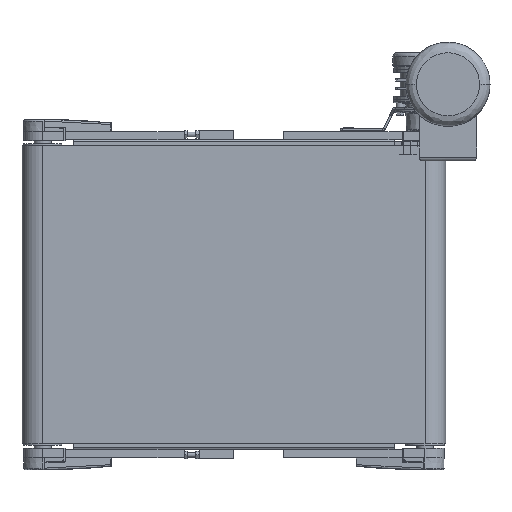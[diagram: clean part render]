
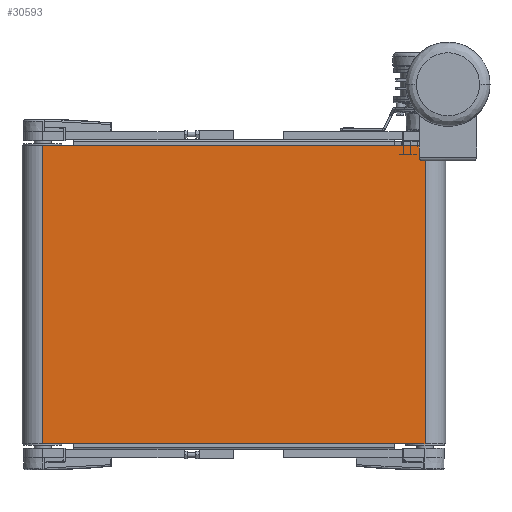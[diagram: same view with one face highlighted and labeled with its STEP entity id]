
A CAD part, front view. The second image highlights one B-rep face of the part: STEP entity #30593.
In plain terms, the highlighted planar face has unit normal (0, -1, 0).
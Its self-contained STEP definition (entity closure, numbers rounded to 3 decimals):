
#3444 = VECTOR ( 'NONE', #23829, 1000. ) ;
#6619 = VECTOR ( 'NONE', #16709, 1000. ) ;
#8462 = CARTESIAN_POINT ( 'NONE',  ( 250., -27., 195. ) ) ;
#9069 = VERTEX_POINT ( 'NONE', #54305 ) ;
#13575 = VERTEX_POINT ( 'NONE', #49119 ) ;
#14473 = LINE ( 'NONE', #25147, #6619 ) ;
#14735 = VECTOR ( 'NONE', #42716, 1000. ) ;
#16709 = DIRECTION ( 'NONE',  ( 1., 0., 0. ) ) ;
#16897 = LINE ( 'NONE', #8462, #14735 ) ;
#18333 = EDGE_CURVE ( 'NONE', #9069, #59838, #58067, .T. ) ;
#18396 = DIRECTION ( 'NONE',  ( 0., 1., 0. ) ) ;
#19320 = CARTESIAN_POINT ( 'NONE',  ( 250., -27., -195. ) ) ;
#21159 = ORIENTED_EDGE ( 'NONE', *, *, #57308, .T. ) ;
#22678 = CARTESIAN_POINT ( 'NONE',  ( -250., -27., -195. ) ) ;
#23829 = DIRECTION ( 'NONE',  ( 0., 0., -1. ) ) ;
#25147 = CARTESIAN_POINT ( 'NONE',  ( -250., -27., -195. ) ) ;
#26137 = EDGE_CURVE ( 'NONE', #9069, #13575, #77757, .T. ) ;
#30556 = ORIENTED_EDGE ( 'NONE', *, *, #26137, .F. ) ;
#30593 = ADVANCED_FACE ( 'NONE', ( #44205 ), #34701, .F. ) ;
#31146 = EDGE_LOOP ( 'NONE', ( #21159, #55020, #30556, #107849 ) ) ;
#32741 = EDGE_CURVE ( 'NONE', #13575, #73200, #16897, .T. ) ;
#34701 = PLANE ( 'NONE',  #81042 ) ;
#42716 = DIRECTION ( 'NONE',  ( 0., 0., -1. ) ) ;
#44205 = FACE_OUTER_BOUND ( 'NONE', #31146, .T. ) ;
#49119 = CARTESIAN_POINT ( 'NONE',  ( 250., -27., 195. ) ) ;
#54305 = CARTESIAN_POINT ( 'NONE',  ( -250., -27., 195. ) ) ;
#55020 = ORIENTED_EDGE ( 'NONE', *, *, #32741, .F. ) ;
#57308 = EDGE_CURVE ( 'NONE', #59838, #73200, #14473, .T. ) ;
#58067 = LINE ( 'NONE', #59180, #3444 ) ;
#59180 = CARTESIAN_POINT ( 'NONE',  ( -250., -27., 195. ) ) ;
#59838 = VERTEX_POINT ( 'NONE', #22678 ) ;
#61491 = DIRECTION ( 'NONE',  ( 1., 0., 0. ) ) ;
#68809 = CARTESIAN_POINT ( 'NONE',  ( -250., -27., 195. ) ) ;
#68945 = DIRECTION ( 'NONE',  ( 0., 0., 1. ) ) ;
#73200 = VERTEX_POINT ( 'NONE', #19320 ) ;
#77757 = LINE ( 'NONE', #68809, #101824 ) ;
#81042 = AXIS2_PLACEMENT_3D ( 'NONE', #86306, #18396, #68945 ) ;
#86306 = CARTESIAN_POINT ( 'NONE',  ( -250., -27., 195. ) ) ;
#101824 = VECTOR ( 'NONE', #61491, 1000. ) ;
#107849 = ORIENTED_EDGE ( 'NONE', *, *, #18333, .T. ) ;
